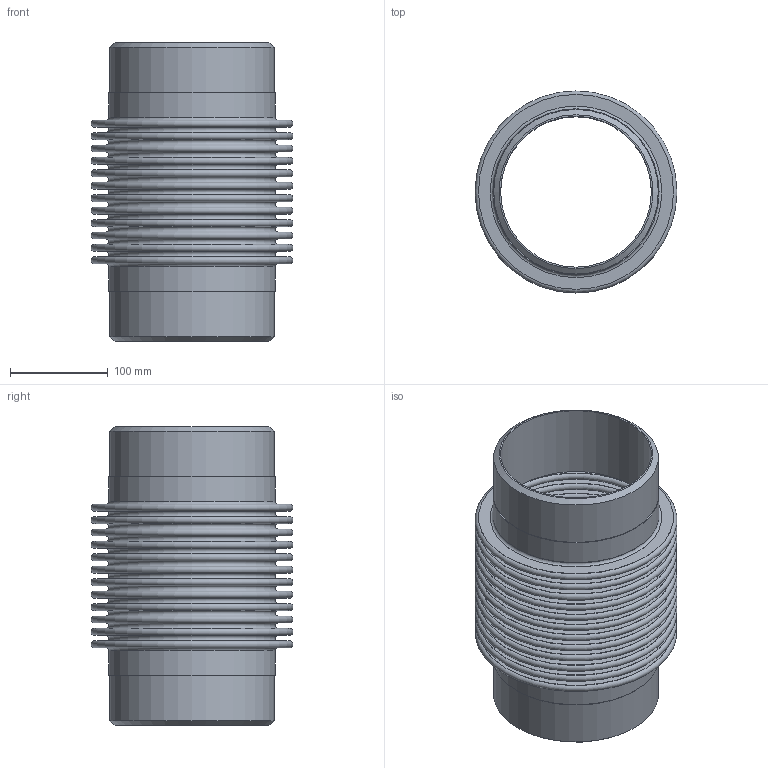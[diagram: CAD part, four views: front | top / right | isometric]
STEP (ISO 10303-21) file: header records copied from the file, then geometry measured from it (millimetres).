
FILE_DESCRIPTION(/* description */ ('EXPANSION JOINT,SINGLE, WELD ENDS,4 INCH NOMINAL'),/* implementation_level */ '2;1');
FILE_NAME(/* name */ 'ASSEMBLY US-6-12-85L.stp',/* time_stamp */ '2026-07-28T16:19:54-05:00',/* author */ ('jorgef'),/* organization */ (''),/* preprocessor_version */ 'ST-DEVELOPER v20.1',/* originating_system */ 'Autodesk Inventor 2026',/* authorisation */ '');
FILE_SCHEMA (('AUTOMOTIVE_DESIGN { 1 0 10303 214 3 1 1 }'));
Length unit declared in the file: inch
Products named in the file (3): ASSEMBLY  US-6-12-85L; STOCK BELLOW - US-6-12-85L; PIPE- US-6-12-85L
Assembly tree (3 placements, depth 2):
  ASSEMBLY  US-6-12-85L
    STOCK BELLOW - US-6-12-85L
    PIPE- US-6-12-85L  x2
Bounding box: 206.38 x 206.38 x 304.8 mm (x, y, z)
Volume: 793052.2 mm3; surface area: 841082.6 mm2
Topology: 5 solids, 5 shells, 118 faces, 180 edges, 121 vertices
Faces by surface type: plane 58, torus 50, cylinder 8, cone 2
Full cylindrical faces by diameter (mm): 154.051 x2, 168.275 x4, 169.799 x2
Entity records: 2769 total; most frequent: DIRECTION 573, CARTESIAN_POINT 405, ORIENTED_EDGE 342, AXIS2_PLACEMENT_3D 283, EDGE_CURVE 171, EDGE_LOOP 169, CIRCLE 164, VERTEX_POINT 114
